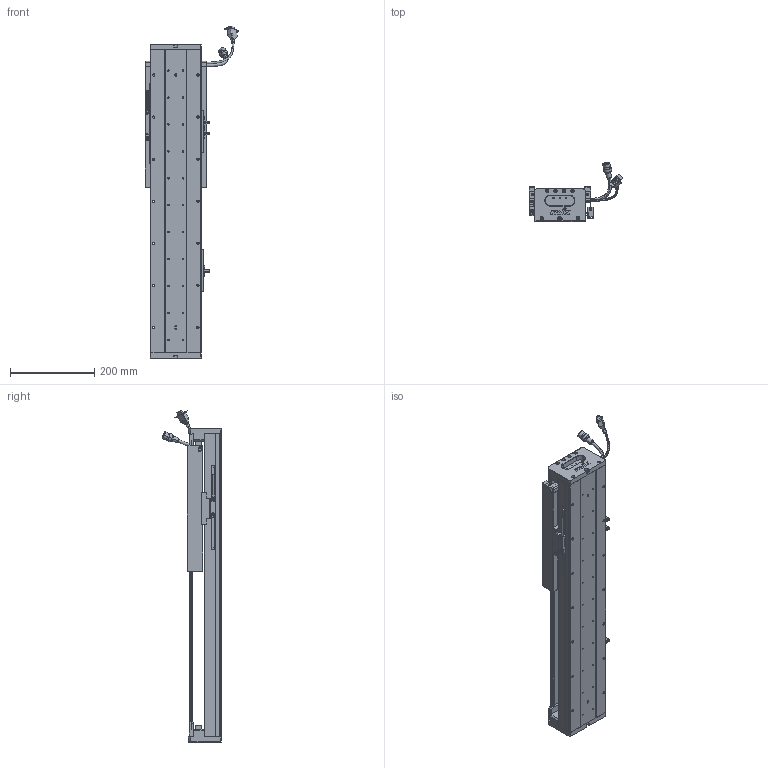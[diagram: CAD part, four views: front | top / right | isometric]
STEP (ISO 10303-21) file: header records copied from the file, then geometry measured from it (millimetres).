
FILE_DESCRIPTION (( 'STEP AP203' ), '1' );
FILE_NAME ('Z4-RY120D-1-L500-B-K.SLDASM_0350.step', '2021-05-17T06:05:56', ( '盈信电脑' ), ( '东莞市道滘镇水果街19号' ), 'SwSTEP 2.0', 'SolidWorks 2016', '' );
FILE_SCHEMA (( 'CONFIG_CONTROL_DESIGN' ));
Length unit declared in the file: millimetre
Products named in the file (37): SEAL-Part-1; SCALE-Part-1; 080黍杅芛假蚾釱21遴; SCREW-M1.7-1; HARNESS-Part-2; SCREW-M1.6; HARNESS; 672嫖萇羲壽假蚾釱; COVER-Part-1; HOLDER0; 120-Z-臏賑輸盄裔(21遴); Z4-RY120-500-倰第菁釱_0350; SHIELDPLATE; Z-RY120D詩湍奻揤裔; 榋妏寠巭燃_暯_M2_2; SCALE; COVER; LABEL-Part-1; RY100FB-遵嫖萇覜茼え; 140蚥薯蝶輸; SCREW-M1.7; Z4-RY120铝滑块（21款）; PBU_SHEET; Z4-RY120-L500詩湍100mm遵_0350; SCALE-Part-2; SCREW-M1.6-1; SEAL; HARNESS-Part-1; SCREW-M1.6-2; Z-RY120D詩湍狟揤裔; PSLH080_PSLF2; SCREW-M1.6-3; 140雄赽晤鎢ん堤盄; Z-120詩湍傷裔啣; LABEL; Z4-RY120D-1-L500-B-K.SLDASM_0350; 覜茼ん672
Assembly tree (43 placements, depth 4):
  Z4-RY120D-1-L500-B-K.SLDASM_0350
    Z4-RY120-500-倰第菁釱_0350
    覜茼ん672  x3
    672嫖萇羲壽假蚾釱  x2
    Z4-RY120铝滑块（21款）
    PSLH080_PSLF2
      SCALE
        SCALE-Part-1
        SCALE-Part-2
      HARNESS
        HARNESS-Part-1
        HARNESS-Part-2
      LABEL
        LABEL-Part-1
      COVER
        COVER-Part-1
      SEAL
        SEAL-Part-1
      榋妏寠巭燃_暯_M2_2
      SHIELDPLATE
      SCREW-M1.7
      SCREW-M1.7-1
      PBU_SHEET
      SCREW-M1.6
      SCREW-M1.6-1
      SCREW-M1.6-2
      SCREW-M1.6-3
      HOLDER0
    080黍杅芛假蚾釱21遴
    120-Z-臏賑輸盄裔(21遴)
    140雄赽晤鎢ん堤盄
    140蚥薯蝶輸  x2
    RY100FB-遵嫖萇覜茼え
    Z-120詩湍傷裔啣  x2
    Z-RY120D詩湍奻揤裔  x2
    Z-RY120D詩湍狟揤裔  x2
    Z4-RY120-L500詩湍100mm遵_0350
Bounding box: 222.88 x 140.94 x 789 mm (x, y, z)
Volume: 2660669.2 mm3; surface area: 833193.7 mm2
Topology: 38 solids, 38 shells, 2645 faces, 7038 edges, 4446 vertices
Faces by surface type: cylinder 1168, plane 1097, cone 258, torus 69, bspline 53
Entity records: 76933 total; most frequent: CARTESIAN_POINT 19538, DIRECTION 11142, ORIENTED_EDGE 11084, EDGE_CURVE 5542, AXIS2_PLACEMENT_3D 4068, VERTEX_POINT 3566, VECTOR 3006, LINE 3006
